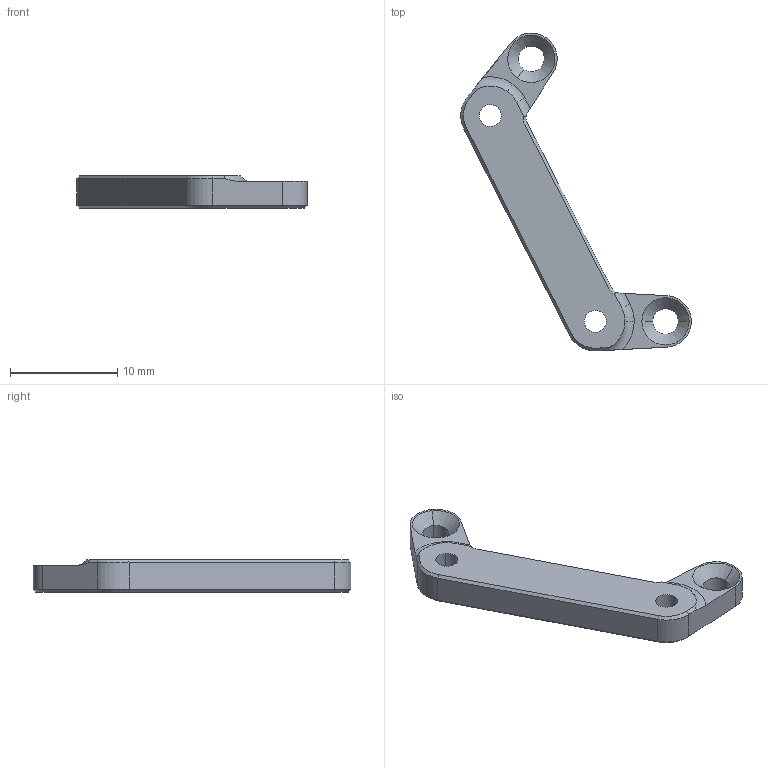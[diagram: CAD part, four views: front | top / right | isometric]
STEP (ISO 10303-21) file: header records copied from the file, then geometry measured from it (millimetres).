
FILE_DESCRIPTION (( 'STEP AP203' ), '1' );
FILE_NAME ('PUMP_ARM_1.STEP');
FILE_SCHEMA (( 'CONFIG_CONTROL_DESIGN' ));
Length unit declared in the file: millimetre
Products named in the file (1): PUMP_ARM_1
Bounding box: 21.45 x 29.57 x 3 mm (x, y, z)
Volume: 523.8 mm3; surface area: 660.6 mm2
Topology: 1 solids, 1 shells, 56 faces, 140 edges, 86 vertices
Faces by surface type: plane 20, cone 16, cylinder 16, torus 4
Entity records: 1771 total; most frequent: CARTESIAN_POINT 317, DIRECTION 302, ORIENTED_EDGE 280, EDGE_CURVE 140, AXIS2_PLACEMENT_3D 115, VERTEX_POINT 86, VECTOR 72, LINE 72
